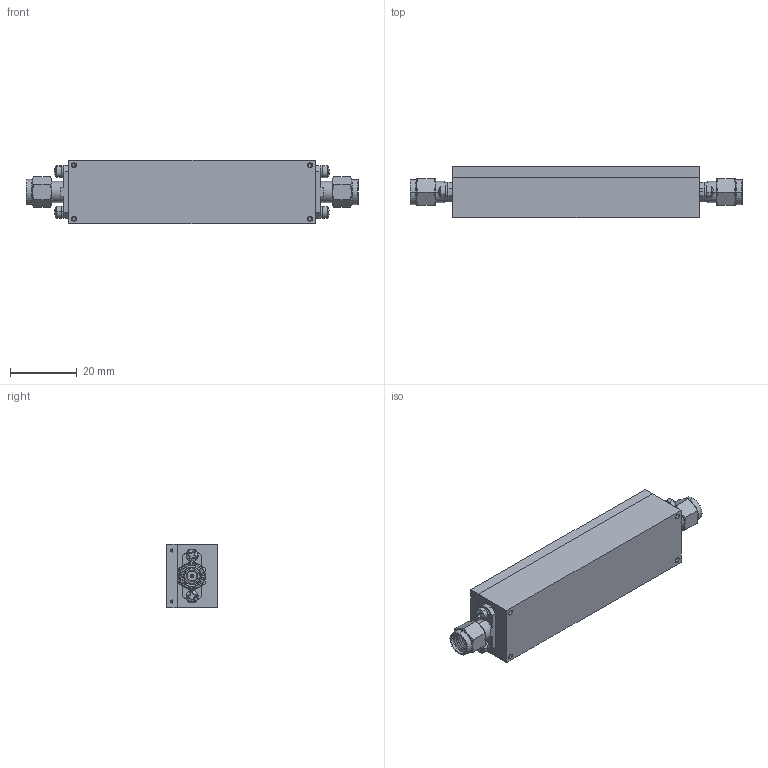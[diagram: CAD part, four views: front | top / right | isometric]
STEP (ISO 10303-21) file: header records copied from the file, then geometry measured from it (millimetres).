
FILE_DESCRIPTION (( 'STEP AP214' ), '1' );
FILE_NAME ('5CL6D8G-100-CD-5MM 3D Model.STEP', '2024-11-06T21:39:08', ( '' ), ( '' ), 'SwSTEP 2.0', 'SolidWorks 2024', '' );
FILE_SCHEMA (( 'AUTOMOTIVE_DESIGN' ));
Length unit declared in the file: inch
Products named in the file (1): 5CL6D8G-100-CD-5MM 3D Model
Bounding box: 99.36 x 15.27 x 19.05 mm (x, y, z)
Volume: 13090 mm3; surface area: 18686.6 mm2
Topology: 50 solids, 54 shells, 2568 faces, 7178 edges, 4832 vertices
Faces by surface type: plane 900, cylinder 842, cone 398, torus 236, sphere 100, bspline 92
Entity records: 92400 total; most frequent: CARTESIAN_POINT 26963, ORIENTED_EDGE 14156, DIRECTION 13115, EDGE_CURVE 7078, AXIS2_PLACEMENT_3D 5219, VERTEX_POINT 4832, EDGE_LOOP 2894, CIRCLE 2742
